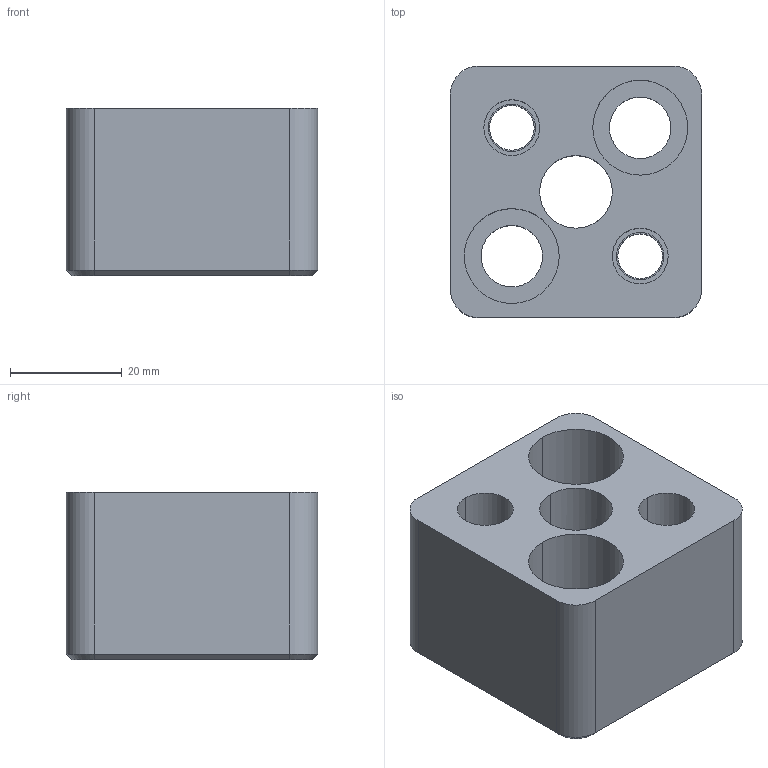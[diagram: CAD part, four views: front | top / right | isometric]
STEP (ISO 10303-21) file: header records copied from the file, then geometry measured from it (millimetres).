
FILE_DESCRIPTION(/* description */ (''),/* implementation_level */ '2;1');
FILE_NAME(/* name */ '3d_hsr-fn13_04197_r00.stp',/* time_stamp */ '2011-01-10T14:14:34+09:00',/* author */ ('MISUMI'),/* organization */ (''),/* preprocessor_version */ 'ST-DEVELOPER v11',/* originating_system */ 'UGS - NX 5.0',/* authorisation */ '');
FILE_SCHEMA (('CONFIG_CONTROL_DESIGN'));
Length unit declared in the file: millimetre
Products named in the file (1): 3d_hsr-fn13_04197_r00
Bounding box: 45 x 45 x 30 mm (x, y, z)
Volume: 42849.2 mm3; surface area: 13713.8 mm2
Topology: 1 solids, 1 shells, 55 faces, 132 edges, 85 vertices
Faces by surface type: cylinder 29, plane 20, cone 6
Entity records: 1732 total; most frequent: DIRECTION 304, CARTESIAN_POINT 290, ORIENTED_EDGE 264, EDGE_CURVE 132, AXIS2_PLACEMENT_3D 121, VERTEX_POINT 85, EDGE_LOOP 71, CIRCLE 65
